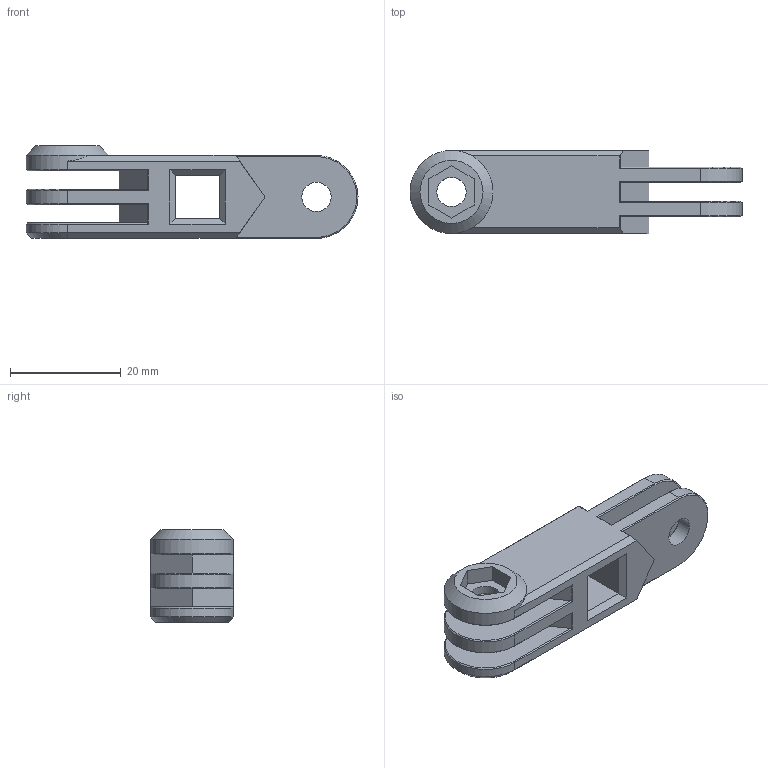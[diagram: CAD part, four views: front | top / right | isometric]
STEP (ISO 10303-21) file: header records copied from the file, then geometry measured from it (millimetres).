
FILE_DESCRIPTION(/* description */ ('STEP AP214'),/* implementation_level */ '2;1');
FILE_NAME(/* name */ '60a1c91047515311da46b728',/* time_stamp */ '2021-05-17T01:38:25+00:00',/* author */ (''),/* organization */ (''),/* preprocessor_version */ 'ST-DEVELOPER v18.1',/* originating_system */ ' ',/* authorisation */ ' ');
FILE_SCHEMA (('AUTOMOTIVE_DESIGN {1 0 10303 214 3 1 1}'));
Length unit declared in the file: metre
Products named in the file (1): Arm Rotated
Bounding box: 60 x 15 x 16.8 mm (x, y, z)
Volume: 7229.7 mm3; surface area: 5106.5 mm2
Topology: 1 solids, 1 shells, 92 faces, 244 edges, 155 vertices
Faces by surface type: plane 72, cylinder 10, cone 10
Full cylindrical faces by diameter (mm): 5.3 x5
Entity records: 2767 total; most frequent: CARTESIAN_POINT 474, ORIENTED_EDGE 464, DIRECTION 451, EDGE_CURVE 232, LINE 199, VECTOR 199, VERTEX_POINT 149, AXIS2_PLACEMENT_3D 126
